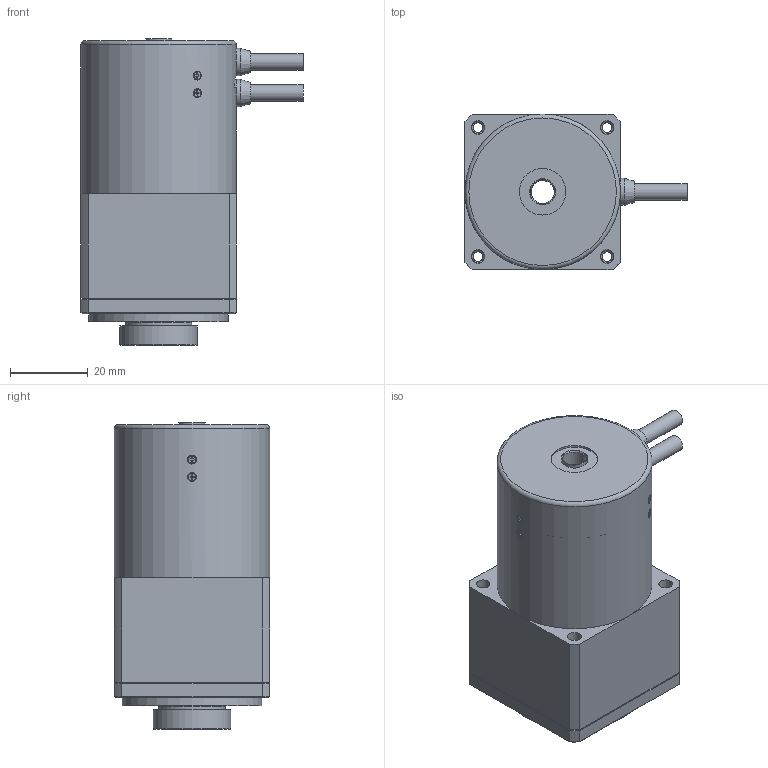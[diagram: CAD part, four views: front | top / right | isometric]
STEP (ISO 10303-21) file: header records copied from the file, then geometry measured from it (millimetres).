
FILE_DESCRIPTION(('STEP AP203'),'1');
FILE_NAME('MDH-4018-G09SH.stp','2020-11-09T01:25:15',(' '),(' '),'Spatial InterOp 3D',' ',' ');
FILE_SCHEMA(('CONFIG_CONTROL_DESIGN'));
Length unit declared in the file: millimetre
Products named in the file (10): MDH-4018-G09SH - コピー; 3芯屈曲ケーブル(4.2)0.3M-TE; モータリード L=300; ケーブルプッシュφ4.2; 14芯屈曲ケーブル(4.2)0.3M-HRS; アセンブリ用ケーブル; タップネジ M1.4X2.2; サラコネジ M1.4X2.5; ギヤシャフトMDH-40-18-SDF
Assembly tree (14 placements, depth 3):
  MDH-4018-G09SH - コピー
    MDH-4018-G09SH - コピー
    3芯屈曲ケーブル(4.2)0.3M-TE
      モータリード L=300
      ケーブルプッシュφ4.2
    14芯屈曲ケーブル(4.2)0.3M-HRS
      アセンブリ用ケーブル
      ケーブルプッシュφ4.2
    タップネジ M1.4X2.2  x3
    サラコネジ M1.4X2.5  x3
    ギヤシャフトMDH-40-18-SDF
Bounding box: 57.2 x 40 x 78.82 mm (x, y, z)
Volume: 100804.5 mm3; surface area: 24854.1 mm2
Topology: 12 solids, 17 shells, 632 faces, 1571 edges, 1015 vertices
Faces by surface type: plane 308, cylinder 179, cone 68, extrusion 56, bspline 19, torus 2
Full cylindrical faces by diameter (mm): 1.1 x3, 1.4 x6, 1.6 x6, 1.8 x4, 2 x10, 2.3 x6, 2.4 x12, 2.5 x8, 3.5 x12, 4.2 x4, 4.5 x4, 6 x3, 6.7 x3, 7 x4, 8 x4, 10 x2, 12 x1, 17 x1, 20 x1, 36 x2, 37 x1, 38 x2, 38.2 x1, 39 x1, 40 x1
Entity records: 17677 total; most frequent: CARTESIAN_POINT 5035, DIRECTION 2295, ORIENTED_EDGE 2292, EDGE_CURVE 1146, AXIS2_PLACEMENT_3D 865, VERTEX_POINT 825, EDGE_LOOP 769, FACE_OUTER_BOUND 641
